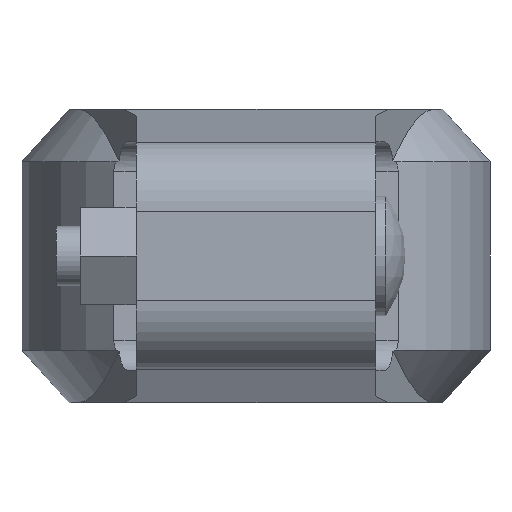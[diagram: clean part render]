
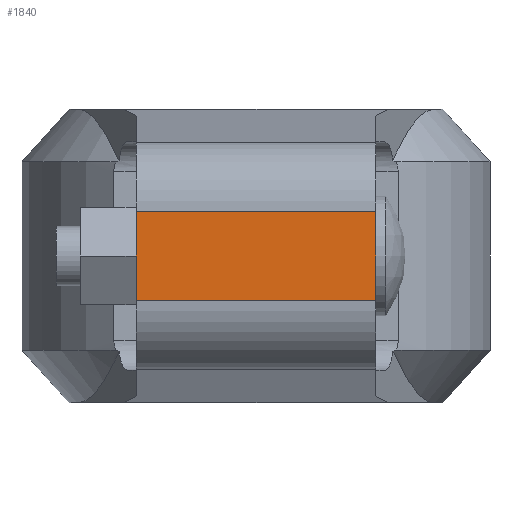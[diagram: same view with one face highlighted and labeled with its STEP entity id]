
A CAD part, left-side view. The second image highlights one B-rep face of the part: STEP entity #1840.
In plain terms, the highlighted planar face has unit normal (-1, 0, 0).
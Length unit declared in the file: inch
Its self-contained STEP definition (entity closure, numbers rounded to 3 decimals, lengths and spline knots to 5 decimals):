
#145=PLANE('',#2010);
#229=FACE_OUTER_BOUND('',#329,.T.);
#329=EDGE_LOOP('',(#1541,#1542,#1543,#1544));
#473=LINE('',#3057,#626);
#481=LINE('',#3075,#634);
#484=LINE('',#3084,#637);
#485=LINE('',#3086,#638);
#626=VECTOR('',#2418,0.3937);
#634=VECTOR('',#2440,0.3937);
#637=VECTOR('',#2451,0.3937);
#638=VECTOR('',#2454,0.3937);
#865=VERTEX_POINT('',#3054);
#866=VERTEX_POINT('',#3056);
#869=VERTEX_POINT('',#3074);
#871=VERTEX_POINT('',#3082);
#1092=EDGE_CURVE('',#865,#866,#473,.T.);
#1101=EDGE_CURVE('',#869,#866,#481,.T.);
#1106=EDGE_CURVE('',#871,#865,#484,.T.);
#1107=EDGE_CURVE('',#871,#869,#485,.T.);
#1541=ORIENTED_EDGE('',*,*,#1101,.T.);
#1542=ORIENTED_EDGE('',*,*,#1092,.F.);
#1543=ORIENTED_EDGE('',*,*,#1106,.F.);
#1544=ORIENTED_EDGE('',*,*,#1107,.T.);
#1840=ADVANCED_FACE('',(#229),#145,.T.);
#2010=AXIS2_PLACEMENT_3D('',#3085,#2452,#2453);
#2418=DIRECTION('',(0.,0.,-1.));
#2440=DIRECTION('',(0.,-1.,0.));
#2451=DIRECTION('',(0.,-1.,0.));
#2452=DIRECTION('center_axis',(-1.,0.,0.));
#2453=DIRECTION('ref_axis',(0.,-1.,0.));
#2454=DIRECTION('',(0.,0.,-1.));
#3054=CARTESIAN_POINT('',(-2.905,-0.75,0.27649));
#3056=CARTESIAN_POINT('',(-2.905,-0.75,-0.27649));
#3057=CARTESIAN_POINT('',(-2.905,-0.75,0.));
#3074=CARTESIAN_POINT('',(-2.905,0.75,-0.27649));
#3075=CARTESIAN_POINT('',(-2.905,-0.75,-0.27649));
#3082=CARTESIAN_POINT('',(-2.905,0.75,0.27649));
#3084=CARTESIAN_POINT('',(-2.905,-0.75,0.27649));
#3085=CARTESIAN_POINT('Origin',(-2.905,0.75,0.));
#3086=CARTESIAN_POINT('',(-2.905,0.75,0.));
